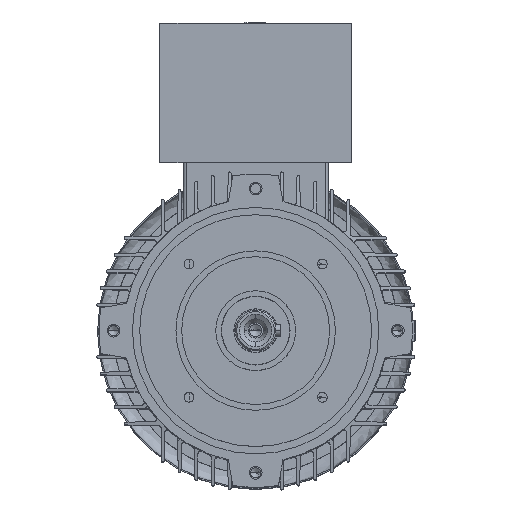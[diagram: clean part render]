
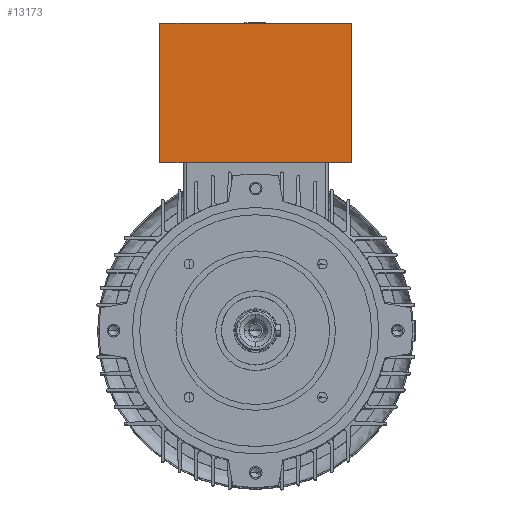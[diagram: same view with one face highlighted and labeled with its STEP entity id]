
A CAD part, top view. The second image highlights one B-rep face of the part: STEP entity #13173.
In plain terms, the highlighted planar face has unit normal (0, 0, 1).
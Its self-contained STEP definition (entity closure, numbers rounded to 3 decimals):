
#86 = LINE ( 'NONE', #14425, #20600 ) ;
#1176 = CARTESIAN_POINT ( 'NONE',  ( 66., 212., 95. ) ) ;
#1835 = EDGE_CURVE ( 'NONE', #3331, #27695, #86, .T. ) ;
#2582 = LINE ( 'NONE', #22115, #30343 ) ;
#2975 = EDGE_CURVE ( 'NONE', #13085, #32084, #2582, .T. ) ;
#3071 = CARTESIAN_POINT ( 'NONE',  ( 66., -74.919, 95. ) ) ;
#3331 = VERTEX_POINT ( 'NONE', #15913 ) ;
#5270 = ORIENTED_EDGE ( 'NONE', *, *, #1835, .F. ) ;
#6057 = DIRECTION ( 'NONE',  ( -1., 0., 0. ) ) ;
#7232 = EDGE_CURVE ( 'NONE', #13085, #27695, #7349, .T. ) ;
#7349 = LINE ( 'NONE', #3071, #25856 ) ;
#8700 = FACE_OUTER_BOUND ( 'NONE', #21354, .T. ) ;
#13085 = VERTEX_POINT ( 'NONE', #26645 ) ;
#13173 = ADVANCED_FACE ( 'NONE', ( #8700 ), #34187, .T. ) ;
#13673 = CARTESIAN_POINT ( 'NONE',  ( -66., 116., 95. ) ) ;
#14296 = DIRECTION ( 'NONE',  ( 1., 0., 0. ) ) ;
#14425 = CARTESIAN_POINT ( 'NONE',  ( -66., 212., 95. ) ) ;
#14889 = VECTOR ( 'NONE', #21400, 1000. ) ;
#15213 = CARTESIAN_POINT ( 'NONE',  ( -66., -74.919, 95. ) ) ;
#15446 = DIRECTION ( 'NONE',  ( 1., 0., 0. ) ) ;
#15565 = DIRECTION ( 'NONE',  ( 0., 0., 1. ) ) ;
#15913 = CARTESIAN_POINT ( 'NONE',  ( -66., 212., 95. ) ) ;
#16194 = ORIENTED_EDGE ( 'NONE', *, *, #2975, .F. ) ;
#19038 = EDGE_CURVE ( 'NONE', #32084, #3331, #31814, .T. ) ;
#20600 = VECTOR ( 'NONE', #14296, 1000. ) ;
#21354 = EDGE_LOOP ( 'NONE', ( #32667, #5270, #27182, #16194 ) ) ;
#21400 = DIRECTION ( 'NONE',  ( 0., 1., 0. ) ) ;
#22115 = CARTESIAN_POINT ( 'NONE',  ( -66., 116., 95. ) ) ;
#25856 = VECTOR ( 'NONE', #27384, 1000. ) ;
#26625 = CARTESIAN_POINT ( 'NONE',  ( -66., -74.919, 95. ) ) ;
#26645 = CARTESIAN_POINT ( 'NONE',  ( 66., 116., 95. ) ) ;
#27182 = ORIENTED_EDGE ( 'NONE', *, *, #19038, .F. ) ;
#27384 = DIRECTION ( 'NONE',  ( 0., 1., 0. ) ) ;
#27695 = VERTEX_POINT ( 'NONE', #1176 ) ;
#30196 = AXIS2_PLACEMENT_3D ( 'NONE', #15213, #15565, #15446 ) ;
#30343 = VECTOR ( 'NONE', #6057, 1000. ) ;
#31814 = LINE ( 'NONE', #26625, #14889 ) ;
#32084 = VERTEX_POINT ( 'NONE', #13673 ) ;
#32667 = ORIENTED_EDGE ( 'NONE', *, *, #7232, .T. ) ;
#34187 = PLANE ( 'NONE',  #30196 ) ;
